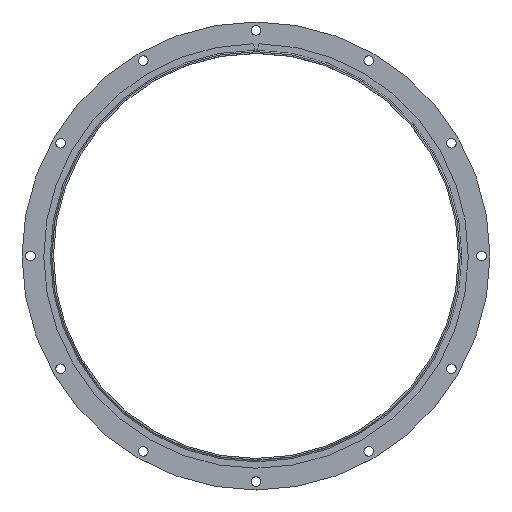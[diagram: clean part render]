
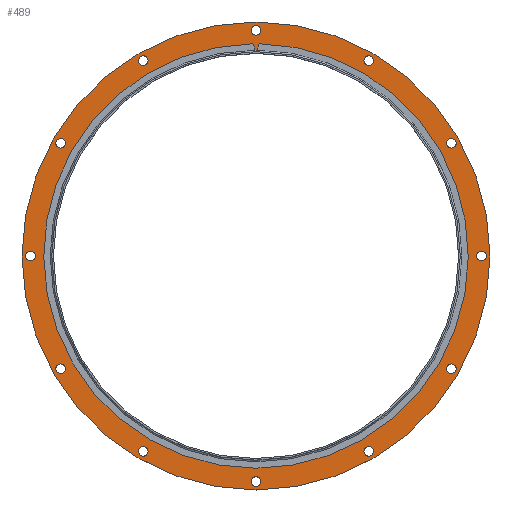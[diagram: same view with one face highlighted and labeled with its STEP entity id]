
A CAD part, top view. The second image highlights one B-rep face of the part: STEP entity #489.
In plain terms, the highlighted planar face has unit normal (0, 0, 1).
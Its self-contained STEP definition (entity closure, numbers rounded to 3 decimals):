
#61=PLANE('',#604);
#84=FACE_BOUND('',#167,.T.);
#85=FACE_BOUND('',#168,.T.);
#86=FACE_BOUND('',#169,.T.);
#87=FACE_BOUND('',#170,.T.);
#88=FACE_BOUND('',#171,.T.);
#89=FACE_BOUND('',#172,.T.);
#90=FACE_BOUND('',#173,.T.);
#91=FACE_BOUND('',#174,.T.);
#92=FACE_BOUND('',#175,.T.);
#93=FACE_BOUND('',#176,.T.);
#94=FACE_BOUND('',#177,.T.);
#95=FACE_BOUND('',#178,.T.);
#96=FACE_BOUND('',#179,.T.);
#124=FACE_OUTER_BOUND('',#166,.T.);
#166=EDGE_LOOP('',(#374));
#167=EDGE_LOOP('',(#375));
#168=EDGE_LOOP('',(#376));
#169=EDGE_LOOP('',(#377));
#170=EDGE_LOOP('',(#378));
#171=EDGE_LOOP('',(#379));
#172=EDGE_LOOP('',(#380));
#173=EDGE_LOOP('',(#381));
#174=EDGE_LOOP('',(#382));
#175=EDGE_LOOP('',(#383));
#176=EDGE_LOOP('',(#384));
#177=EDGE_LOOP('',(#385));
#178=EDGE_LOOP('',(#386));
#179=EDGE_LOOP('',(#387));
#206=CIRCLE('',#563,252.);
#208=CIRCLE('',#566,6.);
#210=CIRCLE('',#569,6.);
#212=CIRCLE('',#572,6.);
#214=CIRCLE('',#575,6.);
#216=CIRCLE('',#578,6.);
#218=CIRCLE('',#581,6.);
#220=CIRCLE('',#584,6.);
#222=CIRCLE('',#587,6.);
#224=CIRCLE('',#590,6.);
#226=CIRCLE('',#593,6.);
#228=CIRCLE('',#596,6.);
#230=CIRCLE('',#599,6.);
#232=CIRCLE('',#602,290.5);
#244=VERTEX_POINT('',#802);
#246=VERTEX_POINT('',#807);
#248=VERTEX_POINT('',#812);
#250=VERTEX_POINT('',#817);
#252=VERTEX_POINT('',#822);
#254=VERTEX_POINT('',#827);
#256=VERTEX_POINT('',#832);
#258=VERTEX_POINT('',#837);
#260=VERTEX_POINT('',#842);
#262=VERTEX_POINT('',#847);
#264=VERTEX_POINT('',#852);
#266=VERTEX_POINT('',#857);
#268=VERTEX_POINT('',#862);
#270=VERTEX_POINT('',#867);
#290=EDGE_CURVE('',#244,#244,#206,.T.);
#292=EDGE_CURVE('',#246,#246,#208,.T.);
#294=EDGE_CURVE('',#248,#248,#210,.T.);
#296=EDGE_CURVE('',#250,#250,#212,.T.);
#298=EDGE_CURVE('',#252,#252,#214,.T.);
#300=EDGE_CURVE('',#254,#254,#216,.T.);
#302=EDGE_CURVE('',#256,#256,#218,.T.);
#304=EDGE_CURVE('',#258,#258,#220,.T.);
#306=EDGE_CURVE('',#260,#260,#222,.T.);
#308=EDGE_CURVE('',#262,#262,#224,.T.);
#310=EDGE_CURVE('',#264,#264,#226,.T.);
#312=EDGE_CURVE('',#266,#266,#228,.T.);
#314=EDGE_CURVE('',#268,#268,#230,.T.);
#316=EDGE_CURVE('',#270,#270,#232,.T.);
#374=ORIENTED_EDGE('',*,*,#316,.F.);
#375=ORIENTED_EDGE('',*,*,#290,.T.);
#376=ORIENTED_EDGE('',*,*,#292,.T.);
#377=ORIENTED_EDGE('',*,*,#294,.T.);
#378=ORIENTED_EDGE('',*,*,#296,.T.);
#379=ORIENTED_EDGE('',*,*,#298,.T.);
#380=ORIENTED_EDGE('',*,*,#300,.T.);
#381=ORIENTED_EDGE('',*,*,#302,.T.);
#382=ORIENTED_EDGE('',*,*,#304,.T.);
#383=ORIENTED_EDGE('',*,*,#306,.T.);
#384=ORIENTED_EDGE('',*,*,#308,.T.);
#385=ORIENTED_EDGE('',*,*,#310,.T.);
#386=ORIENTED_EDGE('',*,*,#312,.T.);
#387=ORIENTED_EDGE('',*,*,#314,.T.);
#489=ADVANCED_FACE('',(#124,#84,#85,#86,#87,#88,#89,#90,#91,#92,#93,#94,
#95,#96),#61,.F.);
#563=AXIS2_PLACEMENT_3D('',#803,#641,#642);
#566=AXIS2_PLACEMENT_3D('',#808,#647,#648);
#569=AXIS2_PLACEMENT_3D('',#813,#653,#654);
#572=AXIS2_PLACEMENT_3D('',#818,#659,#660);
#575=AXIS2_PLACEMENT_3D('',#823,#665,#666);
#578=AXIS2_PLACEMENT_3D('',#828,#671,#672);
#581=AXIS2_PLACEMENT_3D('',#833,#677,#678);
#584=AXIS2_PLACEMENT_3D('',#838,#683,#684);
#587=AXIS2_PLACEMENT_3D('',#843,#689,#690);
#590=AXIS2_PLACEMENT_3D('',#848,#695,#696);
#593=AXIS2_PLACEMENT_3D('',#853,#701,#702);
#596=AXIS2_PLACEMENT_3D('',#858,#707,#708);
#599=AXIS2_PLACEMENT_3D('',#863,#713,#714);
#602=AXIS2_PLACEMENT_3D('',#868,#719,#720);
#604=AXIS2_PLACEMENT_3D('',#871,#723,#724);
#641=DIRECTION('center_axis',(0.,0.,-1.));
#642=DIRECTION('ref_axis',(-1.,0.,0.));
#647=DIRECTION('center_axis',(0.,0.,-1.));
#648=DIRECTION('ref_axis',(-1.,0.,0.));
#653=DIRECTION('center_axis',(0.,0.,-1.));
#654=DIRECTION('ref_axis',(-1.,0.,0.));
#659=DIRECTION('center_axis',(0.,0.,-1.));
#660=DIRECTION('ref_axis',(-1.,0.,0.));
#665=DIRECTION('center_axis',(0.,0.,-1.));
#666=DIRECTION('ref_axis',(-1.,0.,0.));
#671=DIRECTION('center_axis',(0.,0.,-1.));
#672=DIRECTION('ref_axis',(-1.,0.,0.));
#677=DIRECTION('center_axis',(0.,0.,-1.));
#678=DIRECTION('ref_axis',(-1.,0.,0.));
#683=DIRECTION('center_axis',(0.,0.,-1.));
#684=DIRECTION('ref_axis',(-1.,0.,0.));
#689=DIRECTION('center_axis',(0.,0.,-1.));
#690=DIRECTION('ref_axis',(-1.,0.,0.));
#695=DIRECTION('center_axis',(0.,0.,-1.));
#696=DIRECTION('ref_axis',(-1.,0.,0.));
#701=DIRECTION('center_axis',(0.,0.,-1.));
#702=DIRECTION('ref_axis',(-1.,0.,0.));
#707=DIRECTION('center_axis',(0.,0.,-1.));
#708=DIRECTION('ref_axis',(-1.,0.,0.));
#713=DIRECTION('center_axis',(0.,0.,-1.));
#714=DIRECTION('ref_axis',(-1.,0.,0.));
#719=DIRECTION('center_axis',(0.,0.,-1.));
#720=DIRECTION('ref_axis',(-1.,0.,0.));
#723=DIRECTION('center_axis',(0.,0.,-1.));
#724=DIRECTION('ref_axis',(-1.,0.,0.));
#802=CARTESIAN_POINT('',(252.,0.,3.));
#803=CARTESIAN_POINT('Origin',(0.,0.,3.));
#807=CARTESIAN_POINT('',(146.,242.487,3.));
#808=CARTESIAN_POINT('Origin',(140.,242.487,3.));
#812=CARTESIAN_POINT('',(248.487,140.,3.));
#813=CARTESIAN_POINT('Origin',(242.487,140.,3.));
#817=CARTESIAN_POINT('',(286.,0.,3.));
#818=CARTESIAN_POINT('Origin',(280.,0.,3.));
#822=CARTESIAN_POINT('',(248.487,-140.,3.));
#823=CARTESIAN_POINT('Origin',(242.487,-140.,3.));
#827=CARTESIAN_POINT('',(146.,-242.487,3.));
#828=CARTESIAN_POINT('Origin',(140.,-242.487,3.));
#832=CARTESIAN_POINT('',(6.,-280.,3.));
#833=CARTESIAN_POINT('Origin',(0.,-280.,3.));
#837=CARTESIAN_POINT('',(-134.,-242.487,3.));
#838=CARTESIAN_POINT('Origin',(-140.,-242.487,3.));
#842=CARTESIAN_POINT('',(-236.487,-140.,3.));
#843=CARTESIAN_POINT('Origin',(-242.487,-140.,3.));
#847=CARTESIAN_POINT('',(-274.,0.,3.));
#848=CARTESIAN_POINT('Origin',(-280.,0.,3.));
#852=CARTESIAN_POINT('',(-236.487,140.,3.));
#853=CARTESIAN_POINT('Origin',(-242.487,140.,3.));
#857=CARTESIAN_POINT('',(-134.,242.487,3.));
#858=CARTESIAN_POINT('Origin',(-140.,242.487,3.));
#862=CARTESIAN_POINT('',(6.,280.,3.));
#863=CARTESIAN_POINT('Origin',(0.,280.,3.));
#867=CARTESIAN_POINT('',(290.5,0.,3.));
#868=CARTESIAN_POINT('Origin',(0.,0.,3.));
#871=CARTESIAN_POINT('Origin',(0.,0.,3.));
